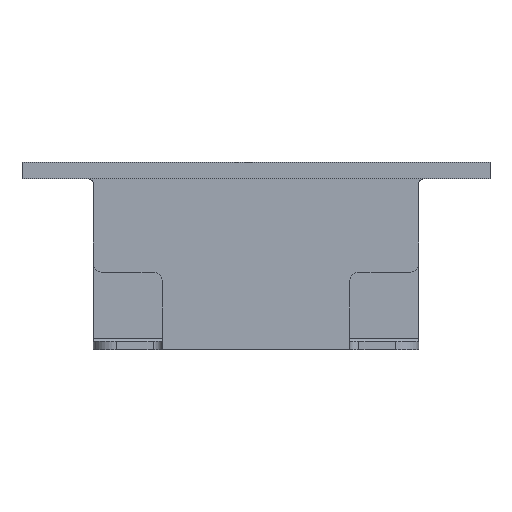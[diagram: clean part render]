
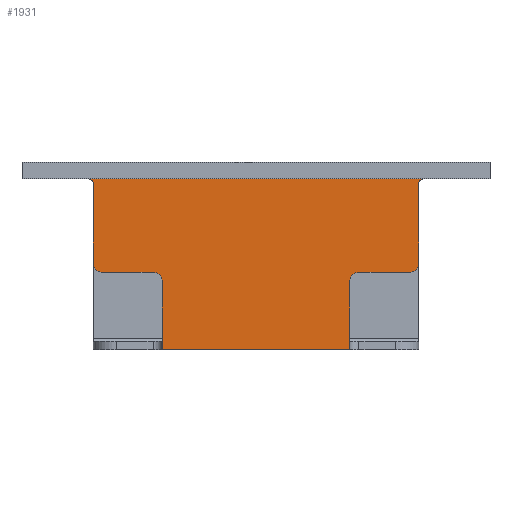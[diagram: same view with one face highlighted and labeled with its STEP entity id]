
A CAD part, left-side view. The second image highlights one B-rep face of the part: STEP entity #1931.
In plain terms, the highlighted planar face has unit normal (-1, 0, 0).
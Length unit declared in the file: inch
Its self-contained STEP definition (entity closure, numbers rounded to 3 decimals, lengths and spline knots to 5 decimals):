
#1806=CARTESIAN_POINT('',(-0.422,-2.5355,0.439));
#1807=VERTEX_POINT('',#1806);
#1808=CARTESIAN_POINT('',(-0.422,-2.5355,1.299));
#1809=VERTEX_POINT('',#1808);
#1810=CARTESIAN_POINT('',(-0.422,-2.5355,-3.97004));
#1811=DIRECTION('',(0.,0.,1.));
#1812=VECTOR('',#1811,39.37008);
#1813=LINE('',#1810,#1812);
#1814=EDGE_CURVE('',#1807,#1809,#1813,.T.);
#1815=ORIENTED_EDGE('',*,*,#1814,.T.);
#1816=CARTESIAN_POINT('',(-0.422,-2.5955,1.359));
#1817=VERTEX_POINT('',#1816);
#1818=CARTESIAN_POINT('',(-0.422,-2.5955,1.299));
#1819=DIRECTION('',(1.,0.,0.));
#1820=DIRECTION('',(0.,0.,-1.));
#1821=AXIS2_PLACEMENT_3D('',#1818,#1819,#1820);
#1822=CIRCLE('',#1821,0.06);
#1823=EDGE_CURVE('',#1809,#1817,#1822,.T.);
#1824=ORIENTED_EDGE('',*,*,#1823,.T.);
#1825=CARTESIAN_POINT('',(-0.422,1.0645,1.359));
#1826=VERTEX_POINT('',#1825);
#1827=CARTESIAN_POINT('',(-0.422,-3.313,1.359));
#1828=DIRECTION('',(0.,1.,0.));
#1829=VECTOR('',#1828,39.37008);
#1830=LINE('',#1827,#1829);
#1831=EDGE_CURVE('',#1817,#1826,#1830,.T.);
#1832=ORIENTED_EDGE('',*,*,#1831,.T.);
#1833=CARTESIAN_POINT('',(-0.422,1.0045,1.299));
#1834=VERTEX_POINT('',#1833);
#1835=CARTESIAN_POINT('',(-0.422,1.0645,1.299));
#1836=DIRECTION('',(1.,0.,0.));
#1837=DIRECTION('',(0.,0.,-1.));
#1838=AXIS2_PLACEMENT_3D('',#1835,#1836,#1837);
#1839=CIRCLE('',#1838,0.06);
#1840=EDGE_CURVE('',#1826,#1834,#1839,.T.);
#1841=ORIENTED_EDGE('',*,*,#1840,.T.);
#1842=CARTESIAN_POINT('',(-0.422,1.0045,0.439));
#1843=VERTEX_POINT('',#1842);
#1844=CARTESIAN_POINT('',(-0.422,1.0045,-3.97004));
#1845=DIRECTION('',(0.,0.,-1.));
#1846=VECTOR('',#1845,39.37008);
#1847=LINE('',#1844,#1846);
#1848=EDGE_CURVE('',#1834,#1843,#1847,.T.);
#1849=ORIENTED_EDGE('',*,*,#1848,.T.);
#1850=CARTESIAN_POINT('',(-0.422,0.9045,0.339));
#1851=VERTEX_POINT('',#1850);
#1852=CARTESIAN_POINT('',(-0.422,0.9045,0.439));
#1853=DIRECTION('',(-1.,0.,0.));
#1854=DIRECTION('',(0.,0.,1.));
#1855=AXIS2_PLACEMENT_3D('',#1852,#1853,#1854);
#1856=CIRCLE('',#1855,0.1);
#1857=EDGE_CURVE('',#1843,#1851,#1856,.T.);
#1858=ORIENTED_EDGE('',*,*,#1857,.T.);
#1859=CARTESIAN_POINT('',(-0.422,0.3545,0.339));
#1860=VERTEX_POINT('',#1859);
#1861=CARTESIAN_POINT('',(-0.422,-3.313,0.339));
#1862=DIRECTION('',(0.,1.,0.));
#1863=VECTOR('',#1862,39.37008);
#1864=LINE('',#1861,#1863);
#1865=EDGE_CURVE('',#1860,#1851,#1864,.T.);
#1866=ORIENTED_EDGE('',*,*,#1865,.F.);
#1867=CARTESIAN_POINT('',(-0.422,0.2545,0.239));
#1868=VERTEX_POINT('',#1867);
#1869=CARTESIAN_POINT('',(-0.422,0.3545,0.239));
#1870=DIRECTION('',(1.,0.,0.));
#1871=DIRECTION('',(0.,0.,-1.));
#1872=AXIS2_PLACEMENT_3D('',#1869,#1870,#1871);
#1873=CIRCLE('',#1872,0.1);
#1874=EDGE_CURVE('',#1860,#1868,#1873,.T.);
#1875=ORIENTED_EDGE('',*,*,#1874,.T.);
#1876=CARTESIAN_POINT('',(-0.422,0.2545,-0.501));
#1877=VERTEX_POINT('',#1876);
#1878=CARTESIAN_POINT('',(-0.422,0.2545,-3.97004));
#1879=DIRECTION('',(0.,0.,1.));
#1880=VECTOR('',#1879,39.37008);
#1881=LINE('',#1878,#1880);
#1882=EDGE_CURVE('',#1877,#1868,#1881,.T.);
#1883=ORIENTED_EDGE('',*,*,#1882,.F.);
#1884=CARTESIAN_POINT('',(-0.422,-1.7855,-0.501));
#1885=VERTEX_POINT('',#1884);
#1886=CARTESIAN_POINT('',(-0.422,-3.313,-0.501));
#1887=DIRECTION('',(0.,-1.,0.));
#1888=VECTOR('',#1887,39.37008);
#1889=LINE('',#1886,#1888);
#1890=EDGE_CURVE('',#1877,#1885,#1889,.T.);
#1891=ORIENTED_EDGE('',*,*,#1890,.T.);
#1892=CARTESIAN_POINT('',(-0.422,-1.7855,0.239));
#1893=VERTEX_POINT('',#1892);
#1894=CARTESIAN_POINT('',(-0.422,-1.7855,-3.97004));
#1895=DIRECTION('',(0.,0.,-1.));
#1896=VECTOR('',#1895,39.37008);
#1897=LINE('',#1894,#1896);
#1898=EDGE_CURVE('',#1893,#1885,#1897,.T.);
#1899=ORIENTED_EDGE('',*,*,#1898,.F.);
#1900=CARTESIAN_POINT('',(-0.422,-1.8855,0.339));
#1901=VERTEX_POINT('',#1900);
#1902=CARTESIAN_POINT('',(-0.422,-1.8855,0.239));
#1903=DIRECTION('',(1.,0.,0.));
#1904=DIRECTION('',(0.,0.,-1.));
#1905=AXIS2_PLACEMENT_3D('',#1902,#1903,#1904);
#1906=CIRCLE('',#1905,0.1);
#1907=EDGE_CURVE('',#1893,#1901,#1906,.T.);
#1908=ORIENTED_EDGE('',*,*,#1907,.T.);
#1909=CARTESIAN_POINT('',(-0.422,-2.4355,0.339));
#1910=VERTEX_POINT('',#1909);
#1911=CARTESIAN_POINT('',(-0.422,-3.313,0.339));
#1912=DIRECTION('',(0.,-1.,0.));
#1913=VECTOR('',#1912,39.37008);
#1914=LINE('',#1911,#1913);
#1915=EDGE_CURVE('',#1901,#1910,#1914,.T.);
#1916=ORIENTED_EDGE('',*,*,#1915,.T.);
#1917=CARTESIAN_POINT('',(-0.422,-2.4355,0.439));
#1918=DIRECTION('',(-1.,0.,0.));
#1919=DIRECTION('',(0.,0.707,0.707));
#1920=AXIS2_PLACEMENT_3D('',#1917,#1918,#1919);
#1921=CIRCLE('',#1920,0.1);
#1922=EDGE_CURVE('',#1910,#1807,#1921,.T.);
#1923=ORIENTED_EDGE('',*,*,#1922,.T.);
#1924=EDGE_LOOP('',(#1815,#1824,#1832,#1841,#1849,#1858,#1866,#1875,#1883,#1891,#1899,#1908,#1916,#1923));
#1925=FACE_OUTER_BOUND('',#1924,.T.);
#1926=CARTESIAN_POINT('',(-0.422,-3.313,-3.97004));
#1927=DIRECTION('',(-1.,0.,0.));
#1928=DIRECTION('',(0.,0.,1.));
#1929=AXIS2_PLACEMENT_3D('',#1926,#1927,#1928);
#1930=PLANE('',#1929);
#1931=ADVANCED_FACE('',(#1925),#1930,.T.);
